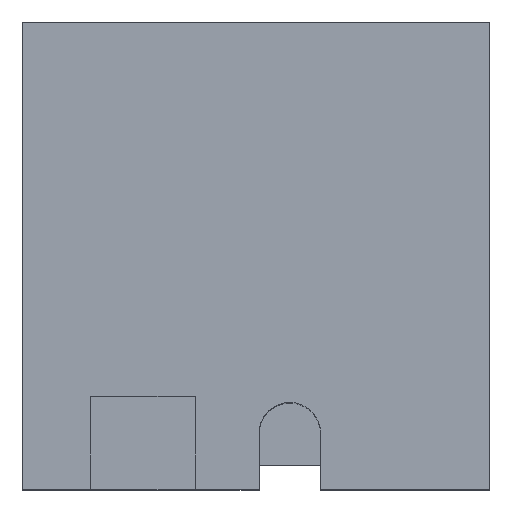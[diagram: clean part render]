
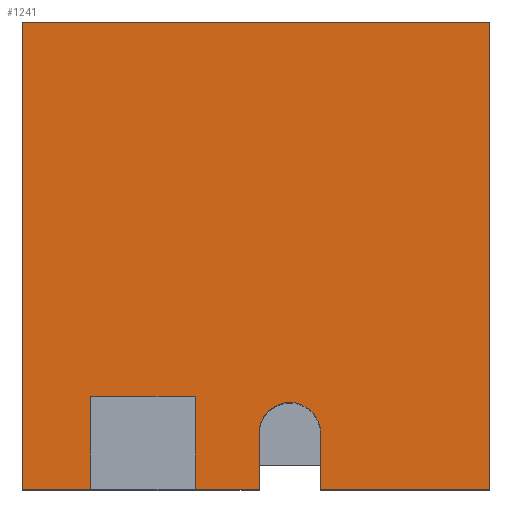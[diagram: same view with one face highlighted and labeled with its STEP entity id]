
A CAD part, top view. The second image highlights one B-rep face of the part: STEP entity #1241.
In plain terms, the highlighted planar face has unit normal (0, 0, 1).
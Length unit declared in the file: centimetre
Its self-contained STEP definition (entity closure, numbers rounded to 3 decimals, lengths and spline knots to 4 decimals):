
#2 = CARTESIAN_POINT ( 'NONE',  ( 0., 0., 1000. ) ) ;
#3 = CARTESIAN_POINT ( 'NONE',  ( 638.0575, 120.1126, 1000. ) ) ;
#19 = VERTEX_POINT ( 'NONE', #1001 ) ;
#31 = DIRECTION ( 'NONE',  ( 0., 1., 0. ) ) ;
#48 = CARTESIAN_POINT ( 'NONE',  ( 0., 1000., 1000. ) ) ;
#50 = CARTESIAN_POINT ( 'NONE',  ( 0., 0., 1000. ) ) ;
#65 = VERTEX_POINT ( 'NONE', #1209 ) ;
#80 = EDGE_CURVE ( 'NONE', #1527, #153, #1346, .T. ) ;
#86 = LINE ( 'NONE', #551, #842 ) ;
#102 = LINE ( 'NONE', #3, #716 ) ;
#125 = VECTOR ( 'NONE', #31, 100. ) ;
#153 = VERTEX_POINT ( 'NONE', #1378 ) ;
#155 = CARTESIAN_POINT ( 'NONE',  ( 1000., 1000., 1000. ) ) ;
#172 = VERTEX_POINT ( 'NONE', #316 ) ;
#206 = DIRECTION ( 'NONE',  ( -1., 0., 0. ) ) ;
#249 = DIRECTION ( 'NONE',  ( -1., 0., 0. ) ) ;
#256 = LINE ( 'NONE', #48, #1023 ) ;
#282 = LINE ( 'NONE', #1223, #743 ) ;
#291 = LINE ( 'NONE', #767, #390 ) ;
#295 = EDGE_CURVE ( 'NONE', #487, #1158, #1114, .T. ) ;
#300 = FACE_OUTER_BOUND ( 'NONE', #927, .T. ) ;
#316 = CARTESIAN_POINT ( 'NONE',  ( 1000., 0., 1000. ) ) ;
#317 = CARTESIAN_POINT ( 'NONE',  ( 146.2225, 198.8586, 1000. ) ) ;
#325 = ORIENTED_EDGE ( 'NONE', *, *, #295, .F. ) ;
#362 = DIRECTION ( 'NONE',  ( 0., 0., 1. ) ) ;
#380 = CARTESIAN_POINT ( 'NONE',  ( 146.2225, 0., 1000. ) ) ;
#385 = VECTOR ( 'NONE', #872, 100. ) ;
#390 = VECTOR ( 'NONE', #778, 100. ) ;
#399 = CARTESIAN_POINT ( 'NONE',  ( 369.8825, 0., 1000. ) ) ;
#402 = ORIENTED_EDGE ( 'NONE', *, *, #1502, .T. ) ;
#455 = EDGE_CURVE ( 'NONE', #1527, #65, #959, .T. ) ;
#479 = EDGE_CURVE ( 'NONE', #1303, #172, #1440, .T. ) ;
#487 = VERTEX_POINT ( 'NONE', #1334 ) ;
#501 = EDGE_CURVE ( 'NONE', #752, #516, #1111, .T. ) ;
#516 = VERTEX_POINT ( 'NONE', #380 ) ;
#520 = DIRECTION ( 'NONE',  ( 0., 0., 1. ) ) ;
#521 = DIRECTION ( 'NONE',  ( 1., 0., 0. ) ) ;
#551 = CARTESIAN_POINT ( 'NONE',  ( 0., 1000., 1000. ) ) ;
#561 = EDGE_CURVE ( 'NONE', #172, #19, #744, .T. ) ;
#592 = VECTOR ( 'NONE', #649, 100. ) ;
#621 = CARTESIAN_POINT ( 'NONE',  ( 506.5417, 0., 1000. ) ) ;
#623 = DIRECTION ( 'NONE',  ( 0., 1., 0. ) ) ;
#625 = ORIENTED_EDGE ( 'NONE', *, *, #1052, .F. ) ;
#649 = DIRECTION ( 'NONE',  ( 1., 0., 0. ) ) ;
#655 = CARTESIAN_POINT ( 'NONE',  ( 506.5417, 120.1126, 1000. ) ) ;
#710 = DIRECTION ( 'NONE',  ( 0., 1., 0. ) ) ;
#716 = VECTOR ( 'NONE', #710, 100. ) ;
#743 = VECTOR ( 'NONE', #772, 100. ) ;
#744 = LINE ( 'NONE', #155, #1403 ) ;
#752 = VERTEX_POINT ( 'NONE', #2 ) ;
#763 = ORIENTED_EDGE ( 'NONE', *, *, #80, .F. ) ;
#767 = CARTESIAN_POINT ( 'NONE',  ( 146.2225, 0., 1000. ) ) ;
#772 = DIRECTION ( 'NONE',  ( -1., 0., 0. ) ) ;
#778 = DIRECTION ( 'NONE',  ( 0., -1., 0. ) ) ;
#784 = DIRECTION ( 'NONE',  ( 1., 0., 0. ) ) ;
#832 = CARTESIAN_POINT ( 'NONE',  ( 0., 0., 1000. ) ) ;
#833 = ORIENTED_EDGE ( 'NONE', *, *, #501, .T. ) ;
#842 = VECTOR ( 'NONE', #206, 100. ) ;
#863 = ORIENTED_EDGE ( 'NONE', *, *, #1315, .T. ) ;
#872 = DIRECTION ( 'NONE',  ( 1., 0., 0. ) ) ;
#873 = EDGE_CURVE ( 'NONE', #1303, #487, #102, .T. ) ;
#878 = ORIENTED_EDGE ( 'NONE', *, *, #561, .T. ) ;
#927 = EDGE_LOOP ( 'NONE', ( #625, #325, #989, #1106, #878, #863, #402, #833, #1116, #1145, #763, #1393 ) ) ;
#941 = AXIS2_PLACEMENT_3D ( 'NONE', #1312, #362, #249 ) ;
#959 = LINE ( 'NONE', #832, #1203 ) ;
#974 = DIRECTION ( 'NONE',  ( 0., -1., 0. ) ) ;
#989 = ORIENTED_EDGE ( 'NONE', *, *, #873, .F. ) ;
#1001 = CARTESIAN_POINT ( 'NONE',  ( 1000., 1000., 1000. ) ) ;
#1023 = VECTOR ( 'NONE', #1442, 100. ) ;
#1052 = EDGE_CURVE ( 'NONE', #1158, #65, #1217, .T. ) ;
#1101 = CARTESIAN_POINT ( 'NONE',  ( 369.8825, 0., 1000. ) ) ;
#1106 = ORIENTED_EDGE ( 'NONE', *, *, #479, .T. ) ;
#1111 = LINE ( 'NONE', #1245, #592 ) ;
#1114 = CIRCLE ( 'NONE', #941, 65.7579 ) ;
#1116 = ORIENTED_EDGE ( 'NONE', *, *, #1352, .F. ) ;
#1117 = PLANE ( 'NONE',  #1208 ) ;
#1145 = ORIENTED_EDGE ( 'NONE', *, *, #1210, .F. ) ;
#1158 = VERTEX_POINT ( 'NONE', #655 ) ;
#1161 = VERTEX_POINT ( 'NONE', #1340 ) ;
#1203 = VECTOR ( 'NONE', #521, 100. ) ;
#1208 = AXIS2_PLACEMENT_3D ( 'NONE', #50, #520, #784 ) ;
#1209 = CARTESIAN_POINT ( 'NONE',  ( 506.5417, 0., 1000. ) ) ;
#1210 = EDGE_CURVE ( 'NONE', #153, #1248, #282, .T. ) ;
#1217 = LINE ( 'NONE', #621, #1450 ) ;
#1223 = CARTESIAN_POINT ( 'NONE',  ( 146.2225, 198.8586, 1000. ) ) ;
#1241 = ADVANCED_FACE ( 'NONE', ( #300 ), #1117, .T. ) ;
#1245 = CARTESIAN_POINT ( 'NONE',  ( 0., 0., 1000. ) ) ;
#1248 = VERTEX_POINT ( 'NONE', #317 ) ;
#1303 = VERTEX_POINT ( 'NONE', #1379 ) ;
#1312 = CARTESIAN_POINT ( 'NONE',  ( 572.2996, 120.1126, 1000. ) ) ;
#1315 = EDGE_CURVE ( 'NONE', #19, #1161, #86, .T. ) ;
#1334 = CARTESIAN_POINT ( 'NONE',  ( 638.0575, 120.1126, 1000. ) ) ;
#1340 = CARTESIAN_POINT ( 'NONE',  ( 0., 1000., 1000. ) ) ;
#1341 = CARTESIAN_POINT ( 'NONE',  ( 0., 0., 1000. ) ) ;
#1346 = LINE ( 'NONE', #1101, #125 ) ;
#1352 = EDGE_CURVE ( 'NONE', #1248, #516, #291, .T. ) ;
#1378 = CARTESIAN_POINT ( 'NONE',  ( 369.8825, 198.8586, 1000. ) ) ;
#1379 = CARTESIAN_POINT ( 'NONE',  ( 638.0575, 0., 1000. ) ) ;
#1393 = ORIENTED_EDGE ( 'NONE', *, *, #455, .T. ) ;
#1403 = VECTOR ( 'NONE', #623, 100. ) ;
#1440 = LINE ( 'NONE', #1341, #385 ) ;
#1442 = DIRECTION ( 'NONE',  ( 0., -1., 0. ) ) ;
#1450 = VECTOR ( 'NONE', #974, 100. ) ;
#1502 = EDGE_CURVE ( 'NONE', #1161, #752, #256, .T. ) ;
#1527 = VERTEX_POINT ( 'NONE', #399 ) ;
